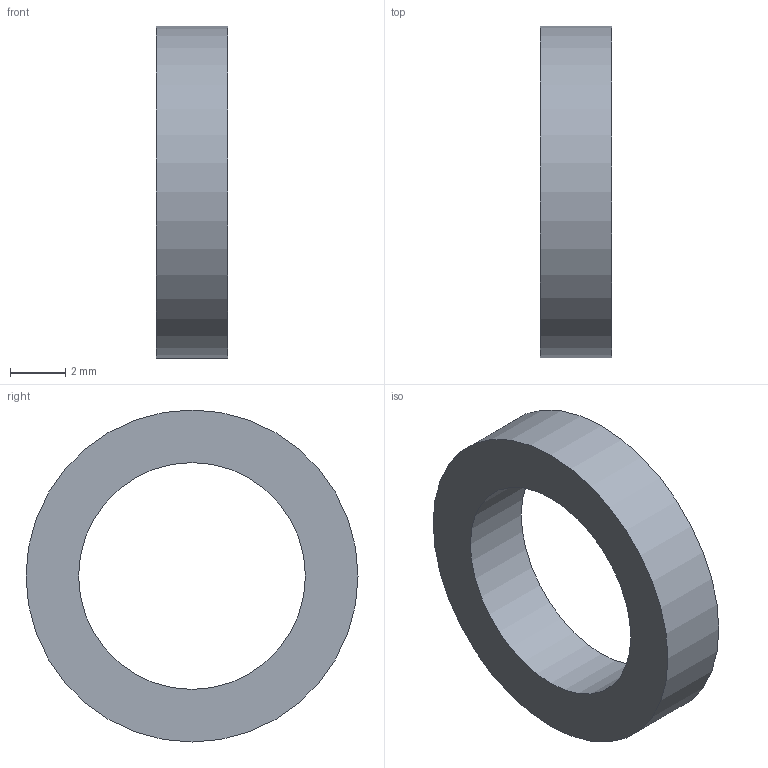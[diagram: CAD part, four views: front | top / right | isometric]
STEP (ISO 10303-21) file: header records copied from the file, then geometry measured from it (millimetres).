
FILE_DESCRIPTION(('Open CASCADE Model'),'2;1');
FILE_NAME('Open CASCADE Shape Model','2026-11-04T08:45:18',('Author'),( 'Open CASCADE'),'Open CASCADE STEP processor 7.8','Open CASCADE 7.8' ,'Unknown');
FILE_SCHEMA(('AUTOMOTIVE_DESIGN { 1 0 10303 214 1 1 1 1 }'));
Length unit declared in the file: millimetre
Products named in the file (1): Open CASCADE STEP translator 7.8 21
Bounding box: 2.6 x 12 x 12 mm (x, y, z)
Volume: 156.7 mm3; surface area: 285.6 mm2
Topology: 1 solids, 1 shells, 4 faces, 6 edges, 4 vertices
Faces by surface type: cylinder 2, plane 2
Full cylindrical faces by diameter (mm): 8.2 x1, 12 x1
Entity records: 186 total; most frequent: DIRECTION 32, CARTESIAN_POINT 27, ORIENTED_EDGE 12, PCURVE 12, DEFINITIONAL_REPRESENTATION 12, LINE 10, VECTOR 10, AXIS2_PLACEMENT_3D 9
